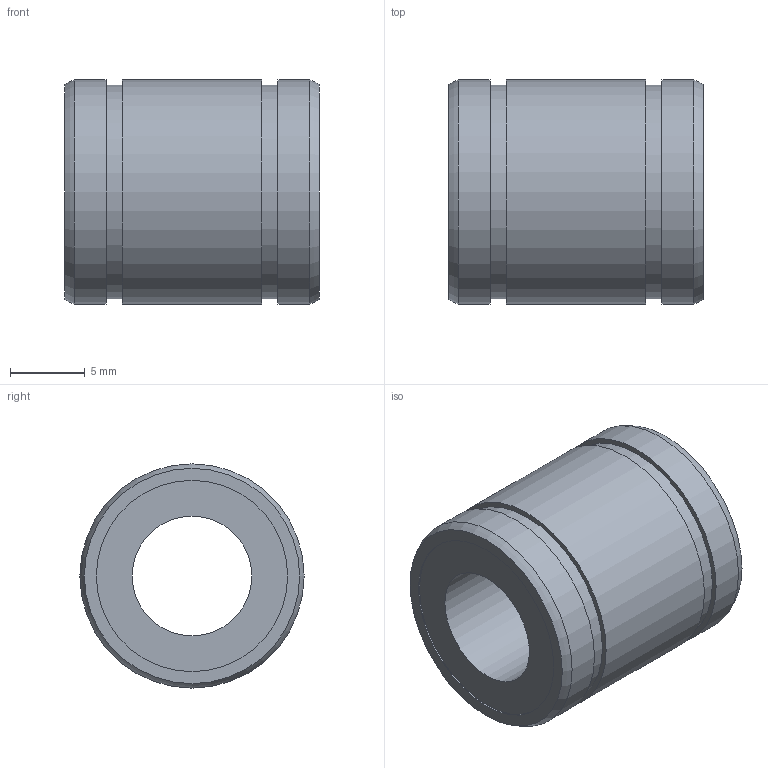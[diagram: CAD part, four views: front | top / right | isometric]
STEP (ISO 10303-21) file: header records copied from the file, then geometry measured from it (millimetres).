
FILE_DESCRIPTION((''),'2;1');
FILE_NAME('D:\製品 (図面)\カタログ用3D\リニアベアリング関連\STEP形式\L\L8A.stp','2010-06-02T17:31:17',('Tsuchiya'),(''),'Autodesk Inventor 10','Autodesk Inventor 10','');
FILE_SCHEMA(('AUTOMOTIVE_DESIGN { 1 0 10303 214 1 1 1 1 }'));
Length unit declared in the file: millimetre
Products named in the file (1): L8A
Bounding box: 17 x 15 x 15 mm (x, y, z)
Volume: 2090.4 mm3; surface area: 1521.4 mm2
Topology: 1 solids, 1 shells, 18 faces, 28 edges, 18 vertices
Faces by surface type: cylinder 8, plane 8, torus 2
Full cylindrical faces by diameter (mm): 8 x1, 12.8 x2, 14.3 x2, 15 x3
Entity records: 391 total; most frequent: DIRECTION 74, CARTESIAN_POINT 55, AXIS2_PLACEMENT_3D 37, ORIENTED_EDGE 36, EDGE_LOOP 36, VERTEX_POINT 18, CIRCLE 18, EDGE_CURVE 18
